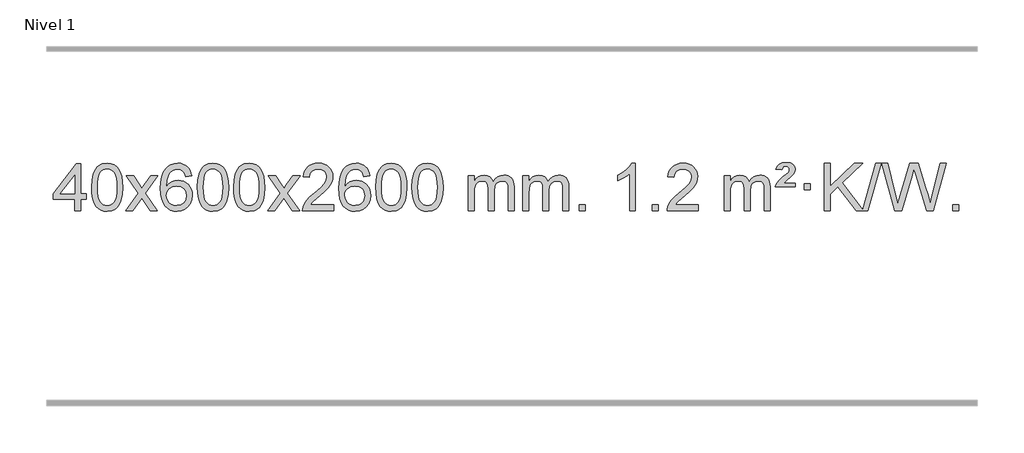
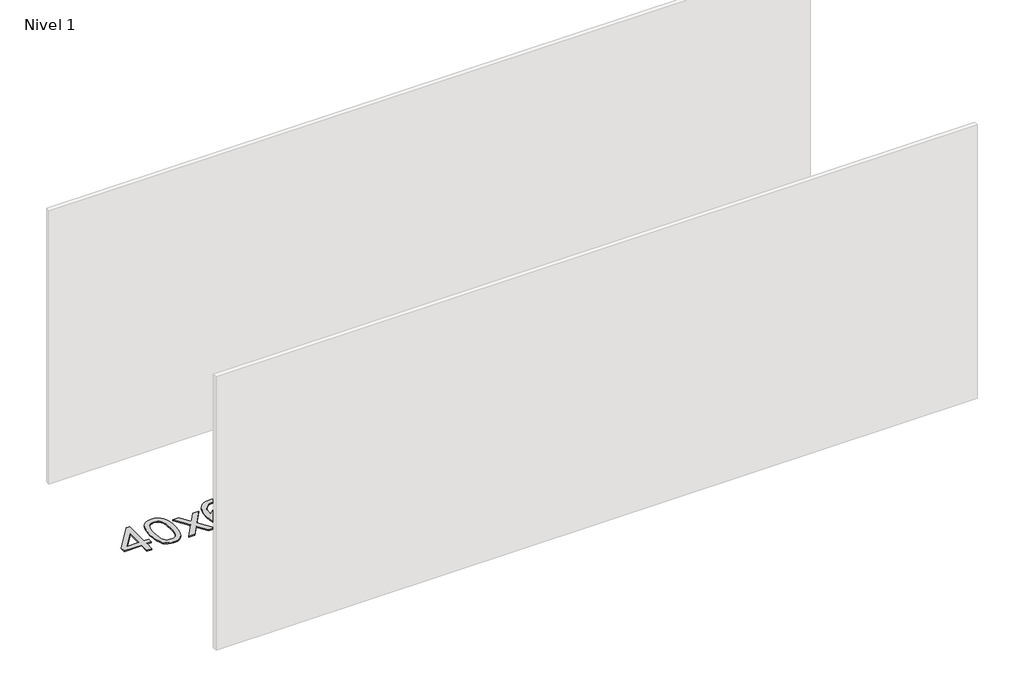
# One storey, part 9 of 9: 1 proxy.
"""IFC4 building model written with IfcOpenShell, lengths in millimetres."""

from ifc_helpers import new_model, si_unit, origin, origin_with_axes, place, context, project, spatial, polyline, outline, extrude, element, save

model = new_model("IFC4")

# Units and contexts
model_context = context("Model", 3, world=origin())
ifc_project = project(units=[si_unit("LENGTHUNIT", "METRE", prefix="MILLI")], contexts=[model_context])

# Site, building, storey
site = spatial("IfcSite", under=ifc_project)
building = spatial("IfcBuilding", under=site)
storey = spatial("IfcBuildingStorey", under=building, Name="Nivel 1", Elevation=0.0)

# Proxy
placement = place(None, origin())
element("IfcBuildingElementProxy", 1, Name="Texto de modelo 1", ObjectType="Texto de modelo 1", at=placement, inside=storey, context=model_context, shape_type="SweptSolid", body=[
    extrude(outline(polyline([(5407.0717935, 2608.420547), (5407.0717935, 2702.5983378), (5224.9947314, 2702.5983378), (5224.9947314, 2752.8264928), (5419.6288323, 3003.9672682), (5457.2999486, 3003.9672682), (5457.2999486, 2752.8264928), (5507.5281037, 2752.8264928), (5507.5281037, 2702.5983378), (5457.2999486, 2702.5983378), (5457.2999486, 2608.420547), (5407.0717935, 2608.420547)]), holes=[polyline([(5407.0717935, 2752.8264928), (5407.0717935, 2908.0236439), (5286.7989066, 2752.8264928), (5407.0717935, 2752.8264928)])]), origin_with_axes(), (0.0, 0.0, 1.0), 10.0),
    extrude(outline(polyline([(5551.4777394, 2806.0958057), (5555.1688221, 2870.4138412), (5566.2420701, 2921.7088541), (5584.5871189, 2960.7656593), (5596.4451819, 2975.9990395), (5610.0936039, 2988.3690716), (5625.5783702, 2997.9401349), (5642.9454661, 3004.7766086), (5683.3266464, 3010.2457876), (5714.277785, 3007.008426), (5741.9915619, 2997.2963414), (5765.1681276, 2981.4896783), (5782.5076323, 2959.9685816), (5795.6042314, 2932.9169922), (5806.05208, 2900.5188512), (5812.8946851, 2859.3773814), (5815.1755535, 2806.0958057), (5811.521259, 2742.1456523), (5800.5583756, 2690.9732667), (5782.3236913, 2651.8796734), (5770.4932195, 2636.6003078), (5756.8539945, 2624.1658964), (5741.3508341, 2614.5304538), (5723.928556, 2607.6479948), (5683.3266464, 2602.1420276), (5655.6619204, 2604.5332606), (5631.1364541, 2611.7069595), (5609.7502474, 2623.6631243), (5591.5033004, 2640.4017551), (5573.9921175, 2670.6600492), (5561.4841296, 2708.3618224), (5553.9793369, 2753.5070745), (5551.4777394, 2806.0958057)]), holes=[polyline([(5601.7058944, 2806.1939076), (5603.1774224, 2762.5293805), (5607.5920064, 2727.1851178), (5614.9496463, 2700.1611196), (5625.2503421, 2681.4573858), (5637.709279, 2668.7317344), (5651.5416421, 2659.6419835), (5666.7474312, 2654.1881329), (5683.3266464, 2652.3701827), (5699.9058617, 2654.1942643), (5715.1116508, 2659.6665089), (5728.9440138, 2668.7869167), (5741.4029507, 2681.5554876), (5751.7036466, 2700.2898783), (5759.0612865, 2727.3077451), (5763.4758705, 2762.6090882), (5764.9473984, 2806.1939076), (5763.5249214, 2848.7026722), (5759.2574902, 2883.4246011), (5752.145105, 2910.3596945), (5742.1877657, 2929.5079524), (5729.9372952, 2942.8559375), (5715.9455167, 2952.3902125), (5700.21243, 2958.1107775), (5682.7380352, 2960.0176325), (5666.2446591, 2958.3376381), (5651.2963874, 2953.2976548), (5637.89322, 2944.8976825), (5626.0351571, 2933.1377214), (5615.3911047, 2912.291075), (5607.7882101, 2884.1848906), (5603.2264734, 2848.8191681), (5601.7058944, 2806.1939076)])]), origin_with_axes(), (0.0, 0.0, 1.0), 10.0),
    extrude(outline(polyline([(5840.2896311, 2608.420547), (5947.6130718, 2756.7505675), (5846.5681504, 2903.5109581), (5906.9988995, 2903.5109581), (5955.7555266, 2832.877615), (5978.5151594, 2799.5229808), (5998.2336343, 2826.7952993), (6053.7592901, 2903.5109581), (6114.1900392, 2903.5109581), (6008.0438209, 2756.7505675), (6110.2659646, 2608.420547), (6049.8352155, 2608.420547), (5988.3253459, 2697.5951426), (5977.0436314, 2713.8800523), (5900.7203801, 2608.420547), (5840.2896311, 2608.420547)])), origin_with_axes(), (0.0, 0.0, 1.0), 10.0),
    extrude(outline(polyline([(6399.0778563, 2903.5109581), (6348.8497012, 2897.2324387), (6340.7562973, 2922.125787), (6329.8179393, 2939.1219352), (6307.0337811, 2954.7937082), (6279.4916824, 2960.0176325), (6256.1434384, 2956.9764747), (6234.1686206, 2947.8530012), (6215.2962742, 2928.6372983), (6199.8820186, 2902.1865829), (6189.4709581, 2864.772984), (6185.6081972, 2812.6686307), (6205.7558678, 2836.1762902), (6229.9011894, 2852.7432427), (6256.6952614, 2862.565692), (6284.7891831, 2865.8398418), (6308.922242, 2863.601893), (6331.1913654, 2856.8880466), (6351.5965534, 2845.6983025), (6370.137806, 2830.0326609), (6385.5459302, 2810.8230894), (6396.5517332, 2789.0015557), (6403.155215, 2764.5680599), (6405.3563756, 2737.5226018), (6401.2115718, 2701.5560055), (6388.7771604, 2668.213634), (6369.0832109, 2639.9357713), (6343.159793, 2619.1627013), (6312.184129, 2606.397196), (6277.3334413, 2602.1420276), (6247.3909126, 2604.9624563), (6220.3485203, 2613.4237421), (6196.2062643, 2627.5258853), (6174.9641448, 2647.2688857), (6157.6460999, 2673.4866092), (6145.2760678, 2707.0129217), (6137.8540485, 2747.8478232), (6135.3800421, 2795.9913136), (6138.1268943, 2849.9657337), (6146.367451, 2896.0306908), (6160.1017122, 2934.1861851), (6179.3296778, 2964.4322165), (6200.1701928, 2984.4756538), (6224.3339085, 2998.7923948), (6251.820825, 3007.3824394), (6282.6309421, 3010.2457876), (6305.7645882, 3008.4738227), (6326.7032051, 3003.1579278), (6345.4467927, 2994.2981031), (6361.9953511, 2981.8943485), (6375.9012906, 2966.3635969), (6386.7170212, 2948.1227814), (6394.4425431, 2927.1719017), (6399.0778563, 2903.5109581)]), holes=[polyline([(6185.6081972, 2738.3074168), (6188.514465, 2716.0505561), (6197.2332682, 2694.7992395), (6210.7713257, 2676.527767), (6228.1353558, 2663.2104388), (6249.0923668, 2655.0802467), (6273.4093667, 2652.3701827), (6306.5555345, 2657.9865145), (6320.4706709, 2665.0069292), (6332.6138425, 2674.8355099), (6342.4638829, 2687.0737176), (6349.499626, 2701.3230135), (6355.1282206, 2735.8548701), (6349.5732024, 2769.0010379), (6342.6294298, 2782.6218688), (6332.9081481, 2794.274531), (6320.7281883, 2803.6095366), (6306.4083817, 2810.2773978), (6271.3492275, 2815.6116867), (6238.2521107, 2810.2773978), (6210.5751219, 2794.274531), (6199.6520924, 2782.7751529), (6191.8499284, 2769.6141746), (6187.16863, 2754.7915958), (6185.6081972, 2738.3074168)])]), origin_with_axes(), (0.0, 0.0, 1.0), 10.0),
    extrude(outline(polyline([(6449.3060113, 2806.0958057), (6452.997094, 2870.4138412), (6464.0703421, 2921.7088541), (6482.4153909, 2960.7656593), (6494.2734539, 2975.9990395), (6507.9218759, 2988.3690716), (6523.4066422, 2997.9401349), (6540.7737381, 3004.7766086), (6581.1549184, 3010.2457876), (6612.1060569, 3007.008426), (6639.8198339, 2997.2963414), (6662.9963996, 2981.4896783), (6680.3359043, 2959.9685816), (6693.4325033, 2932.9169922), (6703.880352, 2900.5188512), (6710.7229571, 2859.3773814), (6713.0038255, 2806.0958057), (6709.349531, 2742.1456523), (6698.3866475, 2690.9732667), (6680.1519633, 2651.8796734), (6668.3214915, 2636.6003078), (6654.6822665, 2624.1658964), (6639.1791061, 2614.5304538), (6621.7568279, 2607.6479948), (6581.1549184, 2602.1420276), (6553.4901924, 2604.5332606), (6528.964726, 2611.7069595), (6507.5785194, 2623.6631243), (6489.3315724, 2640.4017551), (6471.8203894, 2670.6600492), (6459.3124016, 2708.3618224), (6451.8076089, 2753.5070745), (6449.3060113, 2806.0958057)]), holes=[polyline([(6499.5341664, 2806.1939076), (6501.0056944, 2762.5293805), (6505.4202783, 2727.1851178), (6512.7779182, 2700.1611196), (6523.0786141, 2681.4573858), (6535.537551, 2668.7317344), (6549.369914, 2659.6419835), (6564.5757032, 2654.1881329), (6581.1549184, 2652.3701827), (6597.7341337, 2654.1942643), (6612.9399228, 2659.6665089), (6626.7722858, 2668.7869167), (6639.2312227, 2681.5554876), (6649.5319186, 2700.2898783), (6656.8895585, 2727.3077451), (6661.3041424, 2762.6090882), (6662.7756704, 2806.1939076), (6661.3531934, 2848.7026722), (6657.0857622, 2883.4246011), (6649.973377, 2910.3596945), (6640.0160376, 2929.5079524), (6627.7655672, 2942.8559375), (6613.7737886, 2952.3902125), (6598.040702, 2958.1107775), (6580.5663072, 2960.0176325), (6564.0729311, 2958.3376381), (6549.1246594, 2953.2976548), (6535.721492, 2944.8976825), (6523.863429, 2933.1377214), (6513.2193766, 2912.291075), (6505.6164821, 2884.1848906), (6501.0547453, 2848.8191681), (6499.5341664, 2806.1939076)])]), origin_with_axes(), (0.0, 0.0, 1.0), 10.0),
    extrude(outline(polyline([(6756.9534612, 2806.0958057), (6760.6445439, 2870.4138412), (6771.7177919, 2921.7088541), (6790.0628407, 2960.7656593), (6801.9209037, 2975.9990395), (6815.5693257, 2988.3690716), (6831.054092, 2997.9401349), (6848.4211879, 3004.7766086), (6888.8023682, 3010.2457876), (6919.7535068, 3007.008426), (6947.4672837, 2997.2963414), (6970.6438494, 2981.4896783), (6987.9833541, 2959.9685816), (7001.0799532, 2932.9169922), (7011.5278018, 2900.5188512), (7018.3704069, 2859.3773814), (7020.6512753, 2806.0958057), (7016.9969808, 2742.1456523), (7006.0340974, 2690.9732667), (6987.7994131, 2651.8796734), (6975.9689413, 2636.6003078), (6962.3297163, 2624.1658964), (6946.8265559, 2614.5304538), (6929.4042778, 2607.6479948), (6888.8023682, 2602.1420276), (6861.1376422, 2604.5332606), (6836.6121759, 2611.7069595), (6815.2259692, 2623.6631243), (6796.9790222, 2640.4017551), (6779.4678393, 2670.6600492), (6766.9598514, 2708.3618224), (6759.4550587, 2753.5070745), (6756.9534612, 2806.0958057)]), holes=[polyline([(6807.1816162, 2806.1939076), (6808.6531442, 2762.5293805), (6813.0677282, 2727.1851178), (6820.4253681, 2700.1611196), (6830.7260639, 2681.4573858), (6843.1850008, 2668.7317344), (6857.0173639, 2659.6419835), (6872.223153, 2654.1881329), (6888.8023682, 2652.3701827), (6905.3815835, 2654.1942643), (6920.5873726, 2659.6665089), (6934.4197356, 2668.7869167), (6946.8786725, 2681.5554876), (6957.1793684, 2700.2898783), (6964.5370083, 2727.3077451), (6968.9515923, 2762.6090882), (6970.4231202, 2806.1939076), (6969.0006432, 2848.7026722), (6964.733212, 2883.4246011), (6957.6208268, 2910.3596945), (6947.6634875, 2929.5079524), (6935.413017, 2942.8559375), (6921.4212385, 2952.3902125), (6905.6881518, 2958.1107775), (6888.213757, 2960.0176325), (6871.7203809, 2958.3376381), (6856.7721092, 2953.2976548), (6843.3689418, 2944.8976825), (6831.5108789, 2933.1377214), (6820.8668265, 2912.291075), (6813.2639319, 2884.1848906), (6808.7021952, 2848.8191681), (6807.1816162, 2806.1939076)])]), origin_with_axes(), (0.0, 0.0, 1.0), 10.0),
    extrude(outline(polyline([(7045.7653528, 2608.420547), (7153.0887936, 2756.7505675), (7052.0438722, 2903.5109581), (7112.4746213, 2903.5109581), (7161.2312484, 2832.877615), (7183.9908812, 2799.5229808), (7203.7093561, 2826.7952993), (7259.2350119, 2903.5109581), (7319.665761, 2903.5109581), (7213.5195426, 2756.7505675), (7315.7416864, 2608.420547), (7255.3109373, 2608.420547), (7193.8010677, 2697.5951426), (7182.5193532, 2713.8800523), (7106.1961019, 2608.420547), (7045.7653528, 2608.420547)])), origin_with_axes(), (0.0, 0.0, 1.0), 10.0),
    extrude(outline(polyline([(7604.5535781, 2658.6487021), (7604.5535781, 2608.420547), (7340.8557639, 2608.420547), (7341.9594099, 2626.1034082), (7346.2513665, 2643.0505055), (7358.636727, 2670.1143576), (7376.7610466, 2696.3688693), (7402.9787702, 2723.8496544), (7439.6443423, 2754.5923264), (7493.845623, 2802.7358169), (7526.3663913, 2838.2732176), (7542.6267755, 2867.115166), (7548.0469036, 2895.1722995), (7542.9333439, 2920.3231653), (7527.5926647, 2941.2311253), (7504.0114288, 2955.3210057), (7474.176199, 2960.0176325), (7442.8449157, 2955.4313703), (7418.5033904, 2941.6725837), (7402.7948292, 2919.8203932), (7397.3624384, 2890.9539193), (7347.1342833, 2897.2324387), (7351.4538311, 2923.161988), (7359.3111773, 2945.8173875), (7370.7063221, 2965.1986373), (7385.6392655, 2981.3057373), (7403.7666508, 2993.9670093), (7424.7451215, 3003.010775), (7448.5746778, 3008.4370345), (7475.2553195, 3010.2457876), (7502.1750845, 3008.2346994), (7526.1333994, 3002.2014346), (7547.1302643, 2992.1459934), (7565.1656791, 2978.0683758), (7579.6510327, 2961.0109139), (7589.9977138, 2942.0159402), (7596.2057224, 2921.0834547), (7598.2750587, 2898.2134573), (7596.0432412, 2874.1907631), (7589.3477889, 2850.5850017), (7577.4652005, 2826.5745701), (7559.6719746, 2801.3378653), (7531.3082728, 2771.2083299), (7487.7142564, 2732.5194067), (7429.9322577, 2684.204238), (7407.2707268, 2658.6487021), (7604.5535781, 2658.6487021)])), origin_with_axes(), (0.0, 0.0, 1.0), 10.0),
    extrude(outline(polyline([(7912.2010279, 2903.5109581), (7861.9728728, 2897.2324387), (7853.8794689, 2922.125787), (7842.9411109, 2939.1219352), (7820.1569527, 2954.7937082), (7792.614854, 2960.0176325), (7769.26661, 2956.9764747), (7747.2917922, 2947.8530012), (7728.4194458, 2928.6372983), (7713.0051902, 2902.1865829), (7702.5941298, 2864.772984), (7698.7313688, 2812.6686307), (7718.8790394, 2836.1762902), (7743.024361, 2852.7432427), (7769.818433, 2862.565692), (7797.9123547, 2865.8398418), (7822.0454136, 2863.601893), (7844.314537, 2856.8880466), (7864.719725, 2845.6983025), (7883.2609776, 2830.0326609), (7898.6691018, 2810.8230894), (7909.6749049, 2789.0015557), (7916.2783867, 2764.5680599), (7918.4795473, 2737.5226018), (7914.3347435, 2701.5560055), (7901.900332, 2668.213634), (7882.2063825, 2639.9357713), (7856.2829646, 2619.1627013), (7825.3073006, 2606.397196), (7790.4566129, 2602.1420276), (7760.5140842, 2604.9624563), (7733.4716919, 2613.4237421), (7709.329436, 2627.5258853), (7688.0873164, 2647.2688857), (7670.7692715, 2673.4866092), (7658.3992394, 2707.0129217), (7650.9772202, 2747.8478232), (7648.5032137, 2795.9913136), (7651.250066, 2849.9657337), (7659.4906227, 2896.0306908), (7673.2248838, 2934.1861851), (7692.4528494, 2964.4322165), (7713.2933645, 2984.4756538), (7737.4570802, 2998.7923948), (7764.9439966, 3007.3824394), (7795.7541137, 3010.2457876), (7818.8877598, 3008.4738227), (7839.8263767, 3003.1579278), (7858.5699644, 2994.2981031), (7875.1185228, 2981.8943485), (7889.0244622, 2966.3635969), (7899.8401928, 2948.1227814), (7907.5657147, 2927.1719017), (7912.2010279, 2903.5109581)]), holes=[polyline([(7698.7313688, 2738.3074168), (7701.6376366, 2716.0505561), (7710.3564399, 2694.7992395), (7723.8944973, 2676.527767), (7741.2585275, 2663.2104388), (7762.2155385, 2655.0802467), (7786.5325383, 2652.3701827), (7819.6787061, 2657.9865145), (7833.5938426, 2665.0069292), (7845.7370141, 2674.8355099), (7855.5870545, 2687.0737176), (7862.6227977, 2701.3230135), (7868.2513922, 2735.8548701), (7862.6963741, 2769.0010379), (7855.7526014, 2782.6218688), (7846.0313197, 2794.274531), (7833.85136, 2803.6095366), (7819.5315533, 2810.2773978), (7784.4723992, 2815.6116867), (7751.3752823, 2810.2773978), (7723.6982936, 2794.274531), (7712.775264, 2782.7751529), (7704.9731, 2769.6141746), (7700.2918016, 2754.7915958), (7698.7313688, 2738.3074168)])]), origin_with_axes(), (0.0, 0.0, 1.0), 10.0),
    extrude(outline(polyline([(7962.429183, 2806.0958057), (7966.1202656, 2870.4138412), (7977.1935137, 2921.7088541), (7995.5385625, 2960.7656593), (8007.3966255, 2975.9990395), (8021.0450475, 2988.3690716), (8036.5298138, 2997.9401349), (8053.8969097, 3004.7766086), (8094.27809, 3010.2457876), (8125.2292286, 3007.008426), (8152.9430055, 2997.2963414), (8176.1195712, 2981.4896783), (8193.4590759, 2959.9685816), (8206.555675, 2932.9169922), (8217.0035236, 2900.5188512), (8223.8461287, 2859.3773814), (8226.1269971, 2806.0958057), (8222.4727026, 2742.1456523), (8211.5098192, 2690.9732667), (8193.2751349, 2651.8796734), (8181.4446631, 2636.6003078), (8167.8054381, 2624.1658964), (8152.3022777, 2614.5304538), (8134.8799996, 2607.6479948), (8094.27809, 2602.1420276), (8066.613364, 2604.5332606), (8042.0878976, 2611.7069595), (8020.701691, 2623.6631243), (8002.454744, 2640.4017551), (7984.9435611, 2670.6600492), (7972.4355732, 2708.3618224), (7964.9307805, 2753.5070745), (7962.429183, 2806.0958057)]), holes=[polyline([(8012.657338, 2806.1939076), (8014.128866, 2762.5293805), (8018.54345, 2727.1851178), (8025.9010899, 2700.1611196), (8036.2017857, 2681.4573858), (8048.6607226, 2668.7317344), (8062.4930856, 2659.6419835), (8077.6988748, 2654.1881329), (8094.27809, 2652.3701827), (8110.8573053, 2654.1942643), (8126.0630944, 2659.6665089), (8139.8954574, 2668.7869167), (8152.3543943, 2681.5554876), (8162.6550902, 2700.2898783), (8170.0127301, 2727.3077451), (8174.427314, 2762.6090882), (8175.898842, 2806.1939076), (8174.476365, 2848.7026722), (8170.2089338, 2883.4246011), (8163.0965486, 2910.3596945), (8153.1392093, 2929.5079524), (8140.8887388, 2942.8559375), (8126.8969603, 2952.3902125), (8111.1638736, 2958.1107775), (8093.6894788, 2960.0176325), (8077.1961027, 2958.3376381), (8062.247831, 2953.2976548), (8048.8446636, 2944.8976825), (8036.9866007, 2933.1377214), (8026.3425483, 2912.291075), (8018.7396537, 2884.1848906), (8014.1779169, 2848.8191681), (8012.657338, 2806.1939076)])]), origin_with_axes(), (0.0, 0.0, 1.0), 10.0),
    extrude(outline(polyline([(8270.0766328, 2806.0958057), (8273.7677155, 2870.4138412), (8284.8409635, 2921.7088541), (8303.1860124, 2960.7656593), (8315.0440753, 2975.9990395), (8328.6924974, 2988.3690716), (8344.1772637, 2997.9401349), (8361.5443595, 3004.7766086), (8401.9255399, 3010.2457876), (8432.8766784, 3007.008426), (8460.5904554, 2997.2963414), (8483.7670211, 2981.4896783), (8501.1065258, 2959.9685816), (8514.2031248, 2932.9169922), (8524.6509735, 2900.5188512), (8531.4935786, 2859.3773814), (8533.7744469, 2806.0958057), (8530.1201525, 2742.1456523), (8519.157269, 2690.9732667), (8500.9225848, 2651.8796734), (8489.0921129, 2636.6003078), (8475.452888, 2624.1658964), (8459.9497276, 2614.5304538), (8442.5274494, 2607.6479948), (8401.9255399, 2602.1420276), (8374.2608138, 2604.5332606), (8349.7353475, 2611.7069595), (8328.3491408, 2623.6631243), (8310.1021939, 2640.4017551), (8292.5910109, 2670.6600492), (8280.0830231, 2708.3618224), (8272.5782304, 2753.5070745), (8270.0766328, 2806.0958057)]), holes=[polyline([(8320.3047879, 2806.1939076), (8321.7763158, 2762.5293805), (8326.1908998, 2727.1851178), (8333.5485397, 2700.1611196), (8343.8492356, 2681.4573858), (8356.3081725, 2668.7317344), (8370.1405355, 2659.6419835), (8385.3463246, 2654.1881329), (8401.9255399, 2652.3701827), (8418.5047551, 2654.1942643), (8433.7105442, 2659.6665089), (8447.5429073, 2668.7869167), (8460.0018442, 2681.5554876), (8470.30254, 2700.2898783), (8477.6601799, 2727.3077451), (8482.0747639, 2762.6090882), (8483.5462919, 2806.1939076), (8482.1238148, 2848.7026722), (8477.8563837, 2883.4246011), (8470.7439984, 2910.3596945), (8460.7866591, 2929.5079524), (8448.5361887, 2942.8559375), (8434.5444101, 2952.3902125), (8418.8113234, 2958.1107775), (8401.3369287, 2960.0176325), (8384.8435526, 2958.3376381), (8369.8952808, 2953.2976548), (8356.4921135, 2944.8976825), (8344.6340505, 2933.1377214), (8333.9899981, 2912.291075), (8326.3871035, 2884.1848906), (8321.8253668, 2848.8191681), (8320.3047879, 2806.1939076)])]), origin_with_axes(), (0.0, 0.0, 1.0), 10.0),
    extrude(outline(polyline([(8747.244106, 2608.420547), (8747.244106, 2903.5109581), (8797.4722611, 2903.5109581), (8797.4722611, 2854.9505347), (8812.5799483, 2877.2564463), (8832.0041177, 2894.7308411), (8855.0825815, 2906.0248184), (8881.1531522, 2909.7894775), (8909.0876584, 2905.951242), (8931.4794092, 2894.4365355), (8948.2057772, 2876.0056476), (8959.1441352, 2851.4188676), (8977.4523959, 2876.9560094), (8998.3358304, 2895.196825), (9021.794439, 2906.1413143), (9047.8282215, 2909.7894775), (9067.9360383, 2908.2719642), (9085.585177, 2903.7194245), (9100.7756377, 2896.1318584), (9113.5074204, 2885.5092658), (9123.5720587, 2871.7290194), (9130.761086, 2854.6684918), (9135.0745024, 2834.3276832), (9136.5123078, 2810.7065934), (9136.5123078, 2608.420547), (9086.2841528, 2608.420547), (9086.2841528, 2789.124183), (9085.1191931, 2814.1769469), (9081.6243142, 2831.0627305), (9075.0760146, 2842.6264879), (9064.7507933, 2851.7131732), (9051.4702533, 2857.5992851), (9036.0559977, 2859.5613224), (9008.8449928, 2854.5336018), (8986.6617085, 2839.45044), (8978.0563355, 2827.8805512), (8971.9096405, 2813.2817674), (8966.9922845, 2774.9975144), (8966.9922845, 2608.420547), (8916.7641294, 2608.420547), (8916.7641294, 2794.7159894), (8913.8578616, 2823.1164794), (8905.1390583, 2843.3745146), (8889.7983791, 2855.5146204), (8867.0264836, 2859.5613224), (8847.6758907, 2856.8635211), (8829.8458767, 2848.7701172), (8815.1305968, 2835.4773144), (8805.1242066, 2817.1813165), (8799.3852475, 2791.7974589), (8797.4722611, 2757.2410768), (8797.4722611, 2608.420547), (8747.244106, 2608.420547)])), origin_with_axes(), (0.0, 0.0, 1.0), 10.0),
    extrude(outline(polyline([(9211.8545404, 2608.420547), (9211.8545404, 2903.5109581), (9262.0826955, 2903.5109581), (9262.0826955, 2854.9505347), (9277.1903828, 2877.2564463), (9296.6145521, 2894.7308411), (9319.693016, 2906.0248184), (9345.7635867, 2909.7894775), (9373.6980929, 2905.951242), (9396.0898436, 2894.4365355), (9412.8162117, 2876.0056476), (9423.7545697, 2851.4188676), (9442.0628303, 2876.9560094), (9462.9462649, 2895.196825), (9486.4048734, 2906.1413143), (9512.438656, 2909.7894775), (9532.5464727, 2908.2719642), (9550.1956114, 2903.7194245), (9565.3860721, 2896.1318584), (9578.1178548, 2885.5092658), (9588.1824931, 2871.7290194), (9595.3715204, 2854.6684918), (9599.6849368, 2834.3276832), (9601.1227423, 2810.7065934), (9601.1227423, 2608.420547), (9550.8945872, 2608.420547), (9550.8945872, 2789.124183), (9549.7296276, 2814.1769469), (9546.2347486, 2831.0627305), (9539.6864491, 2842.6264879), (9529.3612278, 2851.7131732), (9516.0806877, 2857.5992851), (9500.6664321, 2859.5613224), (9473.4554272, 2854.5336018), (9451.2721429, 2839.45044), (9442.6667699, 2827.8805512), (9436.5200749, 2813.2817674), (9431.6027189, 2774.9975144), (9431.6027189, 2608.420547), (9381.3745638, 2608.420547), (9381.3745638, 2794.7159894), (9378.4682961, 2823.1164794), (9369.7494928, 2843.3745146), (9354.4088136, 2855.5146204), (9331.6369181, 2859.5613224), (9312.2863251, 2856.8635211), (9294.4563111, 2848.7701172), (9279.7410313, 2835.4773144), (9269.734641, 2817.1813165), (9263.9956819, 2791.7974589), (9262.0826955, 2757.2410768), (9262.0826955, 2608.420547), (9211.8545404, 2608.420547)])), origin_with_axes(), (0.0, 0.0, 1.0), 10.0),
    extrude(outline(polyline([(9689.0220137, 2608.420547), (9689.0220137, 2658.6487021), (9739.2501687, 2658.6487021), (9739.2501687, 2608.420547), (9689.0220137, 2608.420547)])), origin_with_axes(), (0.0, 0.0, 1.0), 10.0),
    extrude(outline(polyline([(10166.1894869, 2608.420547), (10115.9613318, 2608.420547), (10115.9613318, 2921.5617013), (10094.9920581, 2904.6023413), (10068.3819271, 2887.6675068), (10015.5050216, 2862.3081746), (10015.5050216, 2909.7894775), (10054.9542343, 2931.2492605), (10089.1304716, 2956.780271), (10116.0716964, 2983.9299622), (10133.8158713, 3010.2457876), (10166.1894869, 3010.2457876), (10166.1894869, 2608.420547)])), origin_with_axes(), (0.0, 0.0, 1.0), 10.0),
    extrude(outline(polyline([(10310.5954327, 2608.420547), (10310.5954327, 2658.6487021), (10360.8235878, 2658.6487021), (10360.8235878, 2608.420547), (10310.5954327, 2608.420547)])), origin_with_axes(), (0.0, 0.0, 1.0), 10.0),
    extrude(outline(polyline([(10699.8636345, 2658.6487021), (10699.8636345, 2608.420547), (10436.1658204, 2608.420547), (10437.2694664, 2626.1034082), (10441.561423, 2643.0505055), (10453.9467835, 2670.1143576), (10472.0711031, 2696.3688693), (10498.2888266, 2723.8496544), (10534.9543988, 2754.5923264), (10589.1556795, 2802.7358169), (10621.6764478, 2838.2732176), (10637.936832, 2867.115166), (10643.3569601, 2895.1722995), (10638.2434003, 2920.3231653), (10622.9027211, 2941.2311253), (10599.3214853, 2955.3210057), (10569.4862554, 2960.0176325), (10538.1549722, 2955.4313703), (10513.8134468, 2941.6725837), (10498.1048856, 2919.8203932), (10492.6724949, 2890.9539193), (10442.4443398, 2897.2324387), (10446.7638875, 2923.161988), (10454.6212338, 2945.8173875), (10466.0163786, 2965.1986373), (10480.9493219, 2981.3057373), (10499.0767073, 2993.9670093), (10520.055178, 3003.010775), (10543.8847343, 3008.4370345), (10570.565376, 3010.2457876), (10597.485141, 3008.2346994), (10621.4434559, 3002.2014346), (10642.4403208, 2992.1459934), (10660.4757356, 2978.0683758), (10674.9610891, 2961.0109139), (10685.3077703, 2942.0159402), (10691.5157789, 2921.0834547), (10693.5851152, 2898.2134573), (10691.3532977, 2874.1907631), (10684.6578454, 2850.5850017), (10672.775257, 2826.5745701), (10654.9820311, 2801.3378653), (10626.6183293, 2771.2083299), (10583.0243129, 2732.5194067), (10525.2423142, 2684.204238), (10502.5807833, 2658.6487021), (10699.8636345, 2658.6487021)])), origin_with_axes(), (0.0, 0.0, 1.0), 10.0),
    extrude(outline(polyline([(10919.611813, 2608.420547), (10919.611813, 2903.5109581), (10969.8399681, 2903.5109581), (10969.8399681, 2854.9505347), (10984.9476553, 2877.2564463), (11004.3718247, 2894.7308411), (11027.4502885, 2906.0248184), (11053.5208592, 2909.7894775), (11081.4553654, 2905.951242), (11103.8471162, 2894.4365355), (11120.5734842, 2876.0056476), (11131.5118422, 2851.4188676), (11149.8201028, 2876.9560094), (11170.7035374, 2895.196825), (11194.162146, 2906.1413143), (11220.1959285, 2909.7894775), (11240.3037452, 2908.2719642), (11257.952884, 2903.7194245), (11273.1433447, 2896.1318584), (11285.8751274, 2885.5092658), (11295.9397656, 2871.7290194), (11303.128793, 2854.6684918), (11307.4422094, 2834.3276832), (11308.8800148, 2810.7065934), (11308.8800148, 2608.420547), (11258.6518597, 2608.420547), (11258.6518597, 2789.124183), (11257.4869001, 2814.1769469), (11253.9920211, 2831.0627305), (11247.4437216, 2842.6264879), (11237.1185003, 2851.7131732), (11223.8379603, 2857.5992851), (11208.4237047, 2859.5613224), (11181.2126998, 2854.5336018), (11159.0294155, 2839.45044), (11150.4240424, 2827.8805512), (11144.2773474, 2813.2817674), (11139.3599914, 2774.9975144), (11139.3599914, 2608.420547), (11089.1318364, 2608.420547), (11089.1318364, 2794.7159894), (11086.2255686, 2823.1164794), (11077.5067653, 2843.3745146), (11062.1660861, 2855.5146204), (11039.3941906, 2859.5613224), (11020.0435977, 2856.8635211), (11002.2135836, 2848.7701172), (10987.4983038, 2835.4773144), (10977.4919136, 2817.1813165), (10971.7529544, 2791.7974589), (10969.8399681, 2757.2410768), (10969.8399681, 2608.420547), (10919.611813, 2608.420547)])), origin_with_axes(), (0.0, 0.0, 1.0), 10.0),
    extrude(outline(polyline([(11352.8296505, 2809.3331673), (11356.6556233, 2825.1520931), (11364.9942818, 2841.0200698), (11386.5031158, 2866.1586728), (11418.4597984, 2893.8969753), (11462.6056379, 2931.273786), (11469.7425486, 2942.8007552), (11472.1215188, 2954.6220299), (11470.2330579, 2966.7130848), (11464.5676752, 2976.4987459), (11455.198947, 2982.973469), (11442.2004499, 2985.1317101), (11429.7660384, 2983.5130293), (11420.9123451, 2978.656987), (11414.4866729, 2969.1901569), (11409.336325, 2953.7391131), (11359.1081699, 2960.0176325), (11369.948426, 2985.2298119), (11386.5766922, 3002.7900458), (11410.3418691, 3013.0907417), (11442.5928573, 3016.524307), (11478.3755127, 3012.3917659), (11503.1217083, 2999.9941427), (11517.5426825, 2981.6613566), (11522.3496739, 2959.7233269), (11518.253921, 2936.8165414), (11505.9666624, 2915.1850801), (11485.438847, 2895.3685032), (11448.9694786, 2867.3113697), (11423.3648917, 2840.7257642), (11522.3496739, 2840.7257642), (11522.3496739, 2809.3331673), (11352.8296505, 2809.3331673)])), origin_with_axes(), (0.0, 0.0, 1.0), 10.0),
    extrude(outline(polyline([(11597.6919065, 2784.2190898), (11597.6919065, 2834.4472448), (11647.9200616, 2834.4472448), (11647.9200616, 2784.2190898), (11597.6919065, 2784.2190898)])), origin_with_axes(), (0.0, 0.0, 1.0), 10.0),
    extrude(outline(polyline([(12038.5616895, 2608.420547), (11885.1303721, 2811.0990009), (11817.440085, 2746.5479735), (11817.440085, 2608.420547), (11767.2119299, 2608.420547), (11767.2119299, 3010.2457876), (11817.440085, 3010.2457876), (11817.440085, 2813.5515475), (12023.4540023, 3010.2457876), (12093.6949379, 3010.2457876), (11920.7413492, 2845.0422463), (12095.3949591, 2614.4650668), (12206.7082868, 3010.2457876), (12252.0313486, 3010.2457876), (12139.0179997, 2608.420547), (12099.9734572, 2608.420547), (12093.6949379, 2608.420547), (12038.5616895, 2608.420547)])), origin_with_axes(), (0.0, 0.0, 1.0), 10.0),
    extrude(outline(polyline([(12366.5162255, 2608.420547), (12256.9364419, 3010.2457876), (12308.7342268, 3010.2457876), (12372.3042355, 2746.155566), (12391.9246086, 2664.6329159), (12412.9184078, 2736.7377869), (12492.5771225, 3010.2457876), (12567.2326421, 3010.2457876), (12625.1127426, 2811.9819177), (12649.9079891, 2738.4055186), (12668.1794615, 2664.6329159), (12687.2112234, 2743.8011212), (12751.3698434, 3010.2457876), (12803.1676283, 3010.2457876), (12693.4897428, 2608.420547), (12639.8280224, 2608.420547), (12543.4919906, 2918.4224416), (12530.0520351, 2961.6853642), (12514.9443478, 2909.5932737), (12427.1431783, 2608.420547), (12366.5162255, 2608.420547)])), origin_with_axes(), (0.0, 0.0, 1.0), 10.0),
    extrude(outline(polyline([(12859.6743028, 2608.420547), (12859.6743028, 2658.6487021), (12909.9024578, 2658.6487021), (12909.9024578, 2608.420547), (12859.6743028, 2608.420547)])), origin_with_axes(), (0.0, 0.0, 1.0), 10.0),
])

save(model, "model.ifc")
